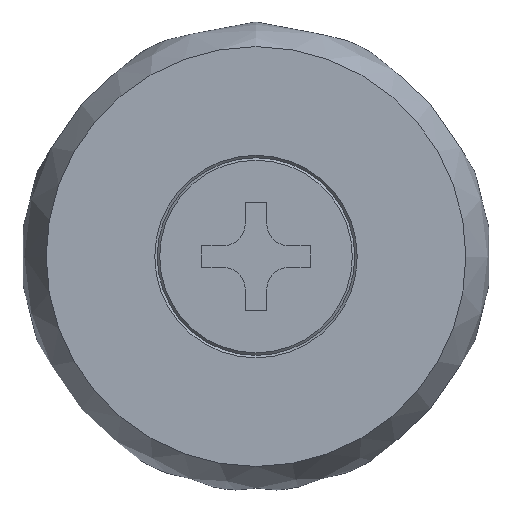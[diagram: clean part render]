
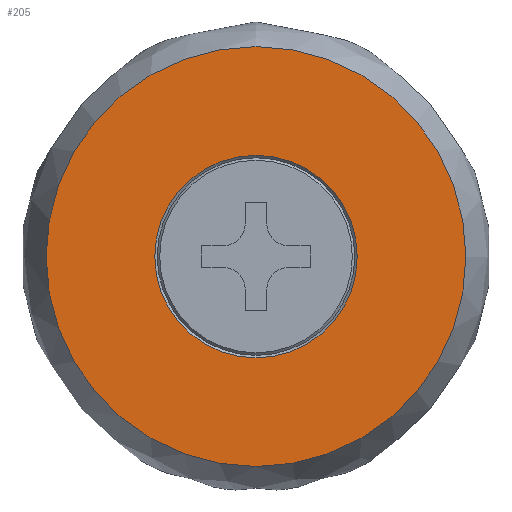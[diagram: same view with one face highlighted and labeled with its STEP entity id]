
A CAD part, left-side view. The second image highlights one B-rep face of the part: STEP entity #205.
In plain terms, the highlighted planar face has unit normal (-1, 0, 0) as drawn and (0, 0, -1) by its records, which use the part's own axes.
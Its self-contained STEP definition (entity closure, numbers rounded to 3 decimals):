
#205=ADVANCED_FACE('',(#378,#379),#380,.F.);
#378=FACE_OUTER_BOUND('',#570,.T.);
#379=FACE_BOUND('',#571,.T.);
#380=PLANE('',#572);
#570=EDGE_LOOP('',(#876));
#571=EDGE_LOOP('',(#877));
#572=AXIS2_PLACEMENT_3D('',#878,#879,#880);
#876=ORIENTED_EDGE('',*,*,#1048,.F.);
#877=ORIENTED_EDGE('',*,*,#958,.T.);
#878=CARTESIAN_POINT('',(9.5,13.6,0.));
#879=DIRECTION('',(0.,0.0,1.0));
#880=DIRECTION('',(-1.0,0.0,0.));
#958=EDGE_CURVE('',#1100,#1100,#1101,.T.);
#1048=EDGE_CURVE('',#1231,#1231,#1232,.T.);
#1100=VERTEX_POINT('',#1346);
#1101=CIRCLE('',#1347,4.1);
#1231=VERTEX_POINT('',#1523);
#1232=CIRCLE('',#1524,8.5);
#1346=CARTESIAN_POINT('',(5.4,9.5,0.));
#1347=AXIS2_PLACEMENT_3D('',#1560,#1561,#1562);
#1523=CARTESIAN_POINT('',(1.,9.5,0.));
#1524=AXIS2_PLACEMENT_3D('',#1657,#1658,#1659);
#1560=CARTESIAN_POINT('',(9.5,9.5,0.));
#1561=DIRECTION('',(0.,0.0,1.0));
#1562=DIRECTION('',(-1.0,0.0,0.));
#1657=CARTESIAN_POINT('',(9.5,9.5,0.));
#1658=DIRECTION('',(0.,0.0,1.0));
#1659=DIRECTION('',(-1.0,0.0,0.));
